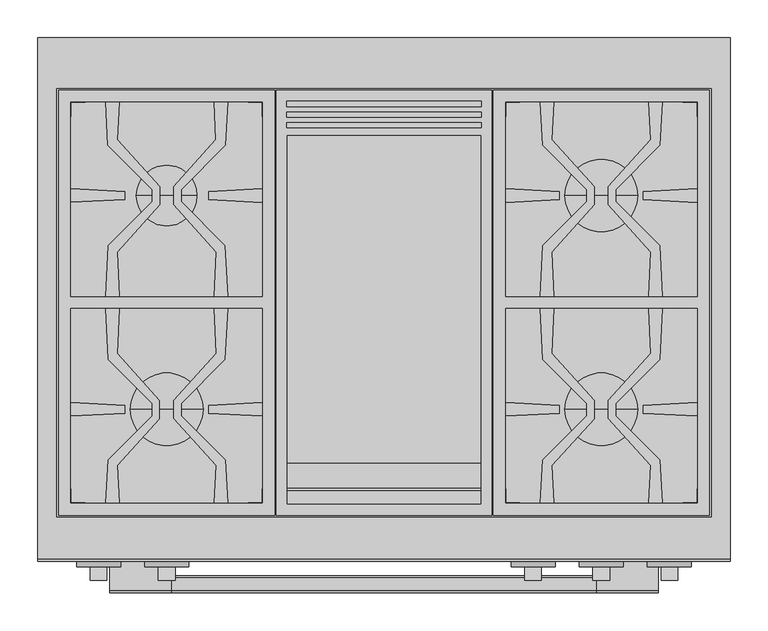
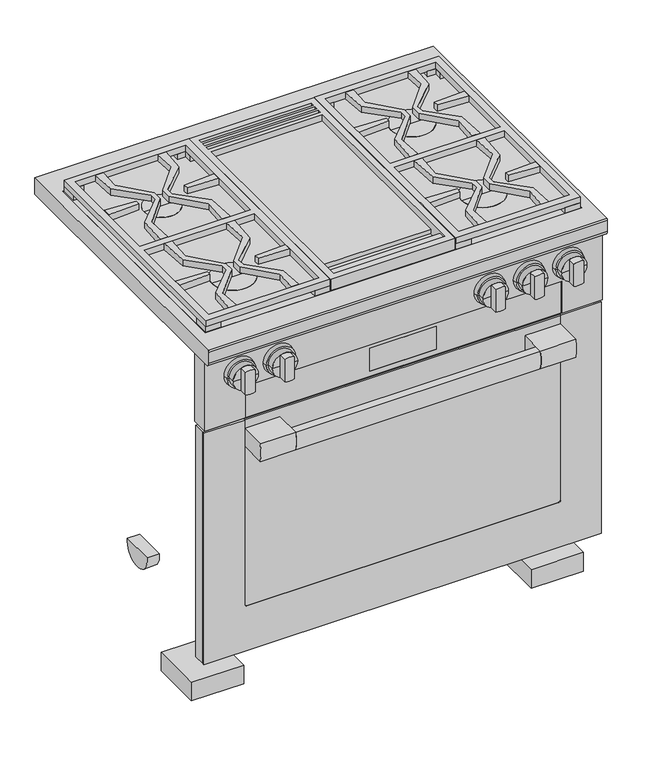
"""IFC4 building model written with IfcOpenShell, lengths in millimetres: proxy geometry, 11816610_BR_HR1936-3LP_EDST-CLS : 25193682_BR_11816610_HR1936-3LP_EDST-CLS."""

from ifc_helpers import new_model, si_unit, point, frame, frame_2d, origin, origin_with_axes, place, context, project, spatial, polyline, circle_curve, trimmed, segment, composite_curve, outline, extrude, faceted_brep, source, transform, mapped, element, save
from ifc_brep_helpers import plane_surface, cylinder_surface, revolved_surface, advanced_brep


def specialty_equipment_28f5a069(model_context):
    return source(origin(), model_context, "Body", "SolidModel", [
        extrude(outline(polyline([(-427.0, -617.0), (427.0, -617.0), (427.0, -638.0), (-427.0, -638.0), (-427.0, -617.0)])), frame((0.0, 0.0, 133.0), z_axis=(0.0, 0.0, 1.0), x_axis=(1.0, 0.0, 0.0)), (0.0, 0.0, 1.0), 550.0),
        advanced_brep(
        [(363.0, -664.7, 688.0), (456.0, -664.7, 688.0), (456.0, -664.7, 127.0), (-456.0, -664.7, 127.0), (-456.0, -664.7, 688.0), (-363.0, -664.7, 688.0), (-363.0, -664.7, 687.0), (-455.0, -664.7, 687.0), (-455.0, -664.7, 128.0), (455.0, -664.7, 128.0), (455.0, -664.7, 687.0), (363.0, -664.7, 687.0), (-363.0, -670.0, 688.0), (-456.0, -670.0, 688.0), (-456.0, -670.0, 127.0), (456.0, -670.0, 127.0), (456.0, -670.0, 688.0), (363.0, -670.0, 688.0), (363.0, -670.0, 241.0), (357.0, -670.0, 235.0), (-357.0, -670.0, 235.0), (-363.0, -670.0, 241.0), (-363.0, -668.7, 241.0), (-363.0, -668.7, 687.0), (357.0, -668.7, 235.0), (-357.0, -668.7, 235.0), (363.0, -668.7, 687.0), (363.0, -668.7, 241.0), (455.0, -668.7, 687.0), (455.0, -668.7, 128.0), (-455.0, -668.7, 128.0), (-455.0, -668.7, 687.0)],
        [
            (0, 1),
            (1, 2),
            (2, 3),
            (3, 4),
            (4, 5),
            (5, 6),
            (6, 7),
            (7, 8),
            (8, 9),
            (9, 10),
            (10, 11),
            (11, 0),
            (12, 13),
            (13, 14),
            (14, 15),
            (15, 16),
            (16, 17),
            (17, 18),
            (18, 19, circle_curve(frame((357.0, -670.0, 241.0), z_axis=(0.0, 1.0, 0.0), x_axis=(-1.0, 0.0, 0.0)), 6.0)),
            (19, 20),
            (20, 21, circle_curve(frame((-357.0, -670.0, 241.0), z_axis=(0.0, 1.0, 0.0), x_axis=(-1.0, 0.0, 0.0)), 6.0)),
            (21, 12),
            (21, 22),
            (22, 23),
            (23, 6),
            (5, 12),
            (19, 24),
            (24, 25),
            (25, 20),
            (17, 0),
            (11, 26),
            (26, 27),
            (27, 18),
            (16, 1),
            (15, 2),
            (14, 3),
            (13, 4),
            (25, 22, circle_curve(frame((-357.0, -668.7, 241.0), z_axis=(0.0, 1.0, 0.0), x_axis=(-1.0, 0.0, 0.0)), 6.0)),
            (27, 24, circle_curve(frame((357.0, -668.7, 241.0), z_axis=(0.0, 1.0, 0.0), x_axis=(-1.0, 0.0, 0.0)), 6.0)),
            (28, 29),
            (29, 30),
            (30, 31),
            (31, 23),
            (26, 28),
            (28, 10),
            (9, 29),
            (8, 30),
            (7, 31),
        ],
        [
            plane_surface(frame((-363.0, -664.7, 241.0), z_axis=(0.0, 1.0, 0.0), x_axis=(0.0, 0.0, -1.0))),
            plane_surface(frame((-363.0, -670.0, 241.0), z_axis=(0.0, -1.0, 0.0), x_axis=(0.0, 0.0, 1.0))),
            plane_surface(frame((-363.0, -664.7, 688.0), z_axis=(1.0, 0.0, 0.0), x_axis=(0.0, -1.0, 0.0))),
            plane_surface(frame((-357.0, -664.7, 235.0), z_axis=(0.0, 0.0, 1.0), x_axis=(0.0, -1.0, 0.0))),
            plane_surface(frame((363.0, -664.7, 241.0), z_axis=(-1.0, 0.0, 0.0), x_axis=(0.0, -1.0, 0.0))),
            plane_surface(frame((363.0, -664.7, 688.0), z_axis=(0.0, 0.0, 1.0), x_axis=(0.0, -1.0, 0.0))),
            plane_surface(frame((456.0, -664.7, 688.0), z_axis=(1.0, 0.0, 0.0), x_axis=(0.0, -1.0, 0.0))),
            plane_surface(frame((456.0, -664.7, 127.0), z_axis=(0.0, 0.0, -1.0), x_axis=(0.0, -1.0, 0.0))),
            plane_surface(frame((-456.0, -664.7, 127.0), z_axis=(-1.0, 0.0, 0.0), x_axis=(0.0, -1.0, 0.0))),
            plane_surface(frame((-456.0, -664.7, 688.0), z_axis=(0.0, 0.0, 1.0), x_axis=(0.0, -1.0, 0.0))),
            revolved_surface(polyline([(-363.0, -670.0, 241.0), (-363.0, -668.7, 241.0)]), (-357.0, -670.0, 241.0), (0.0, -1.0, 0.0)),
            revolved_surface(polyline([(351.0, -670.0, 241.0), (351.0, -668.7, 241.0)]), (357.0, -670.0, 241.0), (0.0, -1.0, 0.0)),
            plane_surface(frame((455.0, -668.7, 687.0), z_axis=(0.0, 1.0, 0.0), x_axis=(0.0, 0.0, 1.0))),
            plane_surface(frame((455.0, -664.7, 687.0), z_axis=(-1.0, 0.0, 0.0), x_axis=(0.0, -1.0, 0.0))),
            plane_surface(frame((455.0, -664.7, 128.0), z_axis=(0.0, 0.0, 1.0), x_axis=(0.0, -1.0, 0.0))),
            plane_surface(frame((-455.0, -664.7, 128.0), z_axis=(1.0, 0.0, 0.0), x_axis=(0.0, -1.0, 0.0))),
            plane_surface(frame((-455.0, -664.7, 687.0), z_axis=(0.0, 0.0, -1.0), x_axis=(0.0, -1.0, 0.0))),
        ],
        [
            (0, [[1, 2, 3, 4, 5, 6, 7, 8, 9, 10, 11, 12]]),
            (1, [[13, 14, 15, 16, 17, 18, 19, 20, 21, 22]]),
            (2, [[-22, 23, 24, 25, -6, 26]]),
            (3, [[-20, 27, 28, 29]]),
            (4, [[-18, 30, -12, 31, 32, 33]]),
            (5, [[-1, -30, -17, 34]]),
            (6, [[-2, -34, -16, 35]]),
            (7, [[-3, -35, -15, 36]]),
            (8, [[-4, -36, -14, 37]]),
            (9, [[-5, -37, -13, -26]]),
            (10, [[-21, -29, 38, -23]]),
            (11, [[-19, -33, 39, -27]]),
            (12, [[40, 41, 42, 43, -24, -38, -28, -39, -32, 44]]),
            (13, [[-40, 45, -10, 46]]),
            (14, [[-41, -46, -9, 47]]),
            (15, [[-42, -47, -8, 48]]),
            (16, [[-45, -44, -31, -11]]),
            (16, [[-48, -7, -25, -43]]),
        ],
    ),
        extrude(outline(polyline([(-455.0, -664.7), (455.0, -664.7), (455.0, -668.7), (-455.0, -668.7), (-455.0, -664.7)])), frame((0.0, 0.0, 128.0), z_axis=(0.0, 0.0, 1.0), x_axis=(1.0, 0.0, 0.0)), (0.0, 0.0, 1.0), 559.0),
        extrude(outline(polyline([(-456.0, -638.0), (456.0, -638.0), (456.0, -664.7), (-456.0, -664.7), (-456.0, -638.0)])), frame((0.0, 0.0, 127.0), z_axis=(0.0, 0.0, 1.0), x_axis=(1.0, 0.0, 0.0)), (0.0, 0.0, 1.0), 561.0),
        extrude(outline(composite_curve([segment(polyline([(-668.7, 667.0), (-668.7, 624.0), (-731.0, 624.0)]), True, "CONTINUOUS"), segment(trimmed(circle_curve(frame_2d((-655.4583333, 645.5)), 78.5416667), [point((-731.0, 624.0))], [point((-731.0, 667.0))], False, "CARTESIAN"), True, "CONTINUOUS"), segment(polyline([(-731.0, 667.0), (-668.7, 667.0)]), True, "CONTINUOUS")], self_intersect=False)), frame((-362.0, 0.0, 0.0), z_axis=(1.0, 0.0, 0.0), x_axis=(0.0, 1.0, 0.0)), (0.0, 0.0, 1.0), 81.0),
        extrude(outline(composite_curve([segment(polyline([(-731.0, 667.0), (-668.7, 667.0), (-668.7, 624.0), (-731.0, 624.0)]), True, "CONTINUOUS"), segment(trimmed(circle_curve(frame_2d((-655.4583333, 645.5)), 78.5416667), [point((-731.0, 624.0))], [point((-731.0, 667.0))], False, "CARTESIAN"), True, "CONTINUOUS")], self_intersect=False)), frame((281.0, 0.0, 0.0), z_axis=(1.0, 0.0, 0.0), x_axis=(0.0, 1.0, 0.0)), (0.0, 0.0, 1.0), 81.0),
        extrude(outline(composite_curve([segment(polyline([(-714.0, 624.0), (-731.0, 624.0)]), True, "CONTINUOUS"), segment(trimmed(circle_curve(frame_2d((-655.4583333, 645.5)), 78.5416667), [point((-731.0, 624.0))], [point((-731.0, 667.0))], False, "CARTESIAN"), True, "CONTINUOUS"), segment(polyline([(-731.0, 667.0), (-714.0, 667.0)]), True, "CONTINUOUS"), segment(trimmed(circle_curve(frame_2d((-789.5416667, 645.5)), 78.5416667), [point((-714.0, 667.0))], [point((-714.0, 624.0))], False, "CARTESIAN"), True, "CONTINUOUS")], self_intersect=False)), frame((-281.0, 0.0, 0.0), z_axis=(1.0, 0.0, 0.0), x_axis=(0.0, 1.0, 0.0)), (0.0, 0.0, 1.0), 562.0),
        advanced_brep(
        [(457.2, 0.0, 902.0), (457.2, -688.3499547, 902.0), (457.2, -692.0, 898.3499547), (457.2, -692.0, 872.0), (457.2, -682.0, 862.0), (457.2, 0.0, 862.0), (-457.2, 0.0, 902.0), (-457.2, 0.0, 862.0), (-457.2, -682.0, 862.0), (-457.2, -692.0, 872.0), (-457.2, -692.0, 898.3499547), (-457.2, -688.3499547, 902.0), (-432.2, -67.0, 902.0), (432.2, -67.0, 902.0), (432.2, -633.0, 902.0), (-432.2, -633.0, 902.0), (432.2, -67.0, 870.0), (-432.2, -67.0, 870.0), (-432.2, -633.0, 870.0), (432.2, -633.0, 870.0)],
        [
            (0, 1),
            (1, 2, circle_curve(frame((457.2, -688.0, 898.0), z_axis=(1.0, 0.0, 0.0), x_axis=(0.0, 0.0, 1.0)), 4.0152794)),
            (2, 3),
            (3, 4, circle_curve(frame((457.2, -682.0, 872.0), z_axis=(1.0, 0.0, 0.0), x_axis=(0.0, 0.0, 1.0)), 10.0)),
            (4, 5),
            (5, 0),
            (6, 7),
            (7, 8),
            (8, 9, circle_curve(frame((-457.2, -682.0, 872.0), z_axis=(-1.0, 0.0, 0.0), x_axis=(0.0, 0.0, 1.0)), 10.0)),
            (9, 10),
            (10, 11, circle_curve(frame((-457.2, -688.0, 898.0), z_axis=(-1.0, 0.0, 0.0), x_axis=(0.0, 0.0, 1.0)), 4.0152794)),
            (11, 6),
            (0, 6),
            (11, 1),
            (12, 13),
            (13, 14),
            (14, 15),
            (15, 12),
            (10, 2),
            (9, 3),
            (8, 4),
            (7, 5),
            (16, 17),
            (17, 18),
            (18, 19),
            (19, 16),
            (16, 13),
            (12, 17),
            (15, 18),
            (14, 19),
        ],
        [
            plane_surface(frame((457.2, -688.3499547, 902.0), z_axis=(1.0, 0.0, 0.0), x_axis=(0.0, -1.0, 0.0))),
            plane_surface(frame((-457.2, -688.3499547, 902.0), z_axis=(-1.0, 0.0, 0.0), x_axis=(0.0, 1.0, 0.0))),
            plane_surface(frame((457.2, 0.0, 902.0), z_axis=(0.0, 0.0, 1.0), x_axis=(-1.0, 0.0, 0.0))),
            cylinder_surface(frame((-457.2, -688.0, 898.0), z_axis=(1.0, 0.0, 0.0), x_axis=(0.0, 0.0, 1.0)), 4.0152794),
            plane_surface(frame((457.2, -692.0, 898.3499547), z_axis=(0.0, -1.0, 0.0), x_axis=(-1.0, 0.0, 0.0))),
            cylinder_surface(frame((-457.2, -682.0, 872.0), z_axis=(1.0, 0.0, 0.0), x_axis=(0.0, 0.0, 1.0)), 10.0),
            plane_surface(frame((457.2, -682.0, 862.0), z_axis=(0.0, 0.0, -1.0), x_axis=(-1.0, 0.0, 0.0))),
            plane_surface(frame((457.2, 0.0, 862.0), z_axis=(0.0, 1.0, 0.0), x_axis=(-1.0, 0.0, 0.0))),
            plane_surface(frame((-432.2, -67.0, 870.0), z_axis=(0.0, 0.0, 1.0), x_axis=(1.0, 0.0, 0.0))),
            plane_surface(frame((432.2, -67.0, 902.0), z_axis=(0.0, -1.0, 0.0), x_axis=(0.0, 0.0, -1.0))),
            plane_surface(frame((-432.2, -67.0, 902.0), z_axis=(1.0, 0.0, 0.0), x_axis=(0.0, 0.0, -1.0))),
            plane_surface(frame((-432.2, -633.0, 902.0), z_axis=(0.0, 1.0, 0.0), x_axis=(0.0, 0.0, -1.0))),
            plane_surface(frame((432.2, -633.0, 902.0), z_axis=(-1.0, 0.0, 0.0), x_axis=(0.0, 0.0, -1.0))),
        ],
        [
            (0, [[1, 2, 3, 4, 5, 6]]),
            (1, [[7, 8, 9, 10, 11, 12]]),
            (2, [[-1, 13, -12, 14], [15, 16, 17, 18]]),
            (3, [[-2, -14, -11, 19]]),
            (4, [[-3, -19, -10, 20]]),
            (5, [[-4, -20, -9, 21]]),
            (6, [[-5, -21, -8, 22]]),
            (7, [[-6, -22, -7, -13]]),
            (8, [[23, 24, 25, 26]]),
            (9, [[-23, 27, -15, 28]]),
            (10, [[-24, -28, -18, 29]]),
            (11, [[-25, -29, -17, 30]]),
            (12, [[-26, -30, -16, -27]]),
        ],
    ),
        advanced_brep(
        [(-335.0, -491.0, 887.0), (-239.0, -491.0, 887.0), (-239.0, -491.0, 901.0), (-335.0, -491.0, 901.0), (-287.0, -491.0, 887.0), (-287.0, -491.0, 901.0)],
        [
            (0, 1, circle_curve(frame((-287.0, -491.0, 887.0), z_axis=(0.0, 0.0, 1.0), x_axis=(1.0, 0.0, 0.0)), 48.0)),
            (1, 2),
            (2, 3, circle_curve(frame((-287.0, -491.0, 901.0), z_axis=(0.0, 0.0, -1.0), x_axis=(1.0, 0.0, 0.0)), 48.0)),
            (3, 0),
            (1, 0, circle_curve(frame((-287.0, -491.0, 887.0), z_axis=(0.0, 0.0, 1.0), x_axis=(1.0, 0.0, 0.0)), 48.0)),
            (3, 2, circle_curve(frame((-287.0, -491.0, 901.0), z_axis=(0.0, 0.0, -1.0), x_axis=(1.0, 0.0, 0.0)), 48.0)),
            (4, 1),
            (0, 4),
            (2, 5),
            (5, 3),
        ],
        [
            cylinder_surface(frame((-287.0, -491.0, 2424.4), z_axis=(0.0, 0.0, -1.0), x_axis=(1.0, 0.0, 0.0)), 48.0),
            plane_surface(frame((-287.0, -491.0, 887.0), z_axis=(0.0, 0.0, -1.0), x_axis=(1.0, 0.0, 0.0))),
            plane_surface(frame((-287.0, -491.0, 901.0), z_axis=(0.0, 0.0, 1.0), x_axis=(1.0, 0.0, 0.0))),
        ],
        [
            (0, [[1, 2, 3, 4]]),
            (0, [[5, -4, 6, -2]]),
            (1, [[7, -1, 8]]),
            (1, [[-8, -5, -7]]),
            (2, [[-3, 9, 10]]),
            (2, [[-6, -10, -9]]),
        ],
    ),
        advanced_brep(
        [(-287.0, -208.5, 887.0), (-247.0, -208.5, 887.0), (-327.0, -208.5, 887.0), (-327.0, -208.5, 901.0), (-247.0, -208.5, 901.0), (-287.0, -208.5, 901.0)],
        [
            (0, 1),
            (1, 2, circle_curve(frame((-287.0, -208.5, 887.0), z_axis=(0.0, 0.0, -1.0), x_axis=(1.0, 0.0, 0.0)), 40.0)),
            (2, 0),
            (2, 1, circle_curve(frame((-287.0, -208.5, 887.0), z_axis=(0.0, 0.0, -1.0), x_axis=(1.0, 0.0, 0.0)), 40.0)),
            (3, 4, circle_curve(frame((-287.0, -208.5, 901.0), z_axis=(0.0, 0.0, 1.0), x_axis=(1.0, 0.0, 0.0)), 40.0)),
            (4, 5),
            (5, 3),
            (4, 3, circle_curve(frame((-287.0, -208.5, 901.0), z_axis=(0.0, 0.0, 1.0), x_axis=(1.0, 0.0, 0.0)), 40.0)),
            (1, 4),
            (3, 2),
        ],
        [
            plane_surface(frame((-287.0, -208.5, 887.0), z_axis=(0.0, 0.0, -1.0), x_axis=(1.0, 0.0, 0.0))),
            plane_surface(frame((-287.0, -208.5, 901.0), z_axis=(0.0, 0.0, 1.0), x_axis=(1.0, 0.0, 0.0))),
            cylinder_surface(frame((-287.0, -208.5, 2424.4), z_axis=(0.0, 0.0, -1.0), x_axis=(1.0, 0.0, 0.0)), 40.0),
        ],
        [
            (0, [[1, 2, 3]]),
            (0, [[-3, 4, -1]]),
            (1, [[5, 6, 7]]),
            (1, [[8, -7, -6]]),
            (2, [[-2, 9, -5, 10]]),
            (2, [[-4, -10, -8, -9]]),
        ],
    ),
        extrude(outline(polyline([(429.5, -631.0), (394.5, -631.0), (394.5, -615.0), (413.5, -615.0), (413.5, -596.0), (429.5, -596.0), (429.5, -631.0)])), frame((0.0, 0.0, 887.0), z_axis=(0.0, 0.0, 1.0), x_axis=(1.0, 0.0, 0.0)), (0.0, 0.0, 1.0), 27.0),
        extrude(outline(polyline([(144.5, -631.0), (144.5, -596.0), (160.5125078, -596.0), (160.5125078, -615.0), (179.5, -615.0), (179.5, -631.0), (144.5, -631.0)])), frame((0.0, 0.0, 887.0), z_axis=(0.0, 0.0, 1.0), x_axis=(1.0, 0.0, 0.0)), (0.0, 0.0, 1.0), 27.0),
        extrude(outline(polyline([(429.5, -69.0), (429.5, -104.0), (413.4874922, -104.0), (413.4874922, -85.0), (394.5, -85.0), (394.5, -69.0), (429.5, -69.0)])), frame((0.0, 0.0, 887.0), z_axis=(0.0, 0.0, 1.0), x_axis=(1.0, 0.0, 0.0)), (0.0, 0.0, 1.0), 27.0),
        extrude(outline(polyline([(144.5, -69.0), (179.5, -69.0), (179.5, -85.0), (160.5125078, -85.0), (160.5125078, -104.0), (144.5, -104.0), (144.5, -69.0)])), frame((0.0, 0.0, 887.0), z_axis=(0.0, 0.0, 1.0), x_axis=(1.0, 0.0, 0.0)), (0.0, 0.0, 1.0), 27.0),
        advanced_brep(
        [(239.0, -491.0, 887.0), (335.0, -491.0, 887.0), (335.0, -491.0, 901.0), (239.0, -491.0, 901.0), (287.0, -491.0, 887.0), (287.0, -491.0, 901.0)],
        [
            (0, 1, circle_curve(frame((287.0, -491.0, 887.0), z_axis=(0.0, 0.0, 1.0), x_axis=(1.0, 0.0, 0.0)), 48.0)),
            (1, 2),
            (2, 3, circle_curve(frame((287.0, -491.0, 901.0), z_axis=(0.0, 0.0, -1.0), x_axis=(1.0, 0.0, 0.0)), 48.0)),
            (3, 0),
            (1, 0, circle_curve(frame((287.0, -491.0, 887.0), z_axis=(0.0, 0.0, 1.0), x_axis=(1.0, 0.0, 0.0)), 48.0)),
            (3, 2, circle_curve(frame((287.0, -491.0, 901.0), z_axis=(0.0, 0.0, -1.0), x_axis=(1.0, 0.0, 0.0)), 48.0)),
            (4, 1),
            (0, 4),
            (2, 5),
            (5, 3),
        ],
        [
            cylinder_surface(frame((287.0, -491.0, 2424.4), z_axis=(0.0, 0.0, -1.0), x_axis=(1.0, 0.0, 0.0)), 48.0),
            plane_surface(frame((287.0, -491.0, 887.0), z_axis=(0.0, 0.0, -1.0), x_axis=(1.0, 0.0, 0.0))),
            plane_surface(frame((287.0, -491.0, 901.0), z_axis=(0.0, 0.0, 1.0), x_axis=(1.0, 0.0, 0.0))),
        ],
        [
            (0, [[1, 2, 3, 4]]),
            (0, [[5, -4, 6, -2]]),
            (1, [[7, -1, 8]]),
            (1, [[-8, -5, -7]]),
            (2, [[-3, 9, 10]]),
            (2, [[-6, -10, -9]]),
        ],
    ),
        extrude(outline(polyline([(429.5, -69.0), (429.5, -631.0), (144.5, -631.0), (144.5, -69.0), (429.5, -69.0)]), holes=[polyline([(413.5, -85.0), (160.5, -85.0), (160.5, -342.0), (413.5, -342.0), (413.5, -85.0)]), polyline([(160.5, -358.0), (160.5, -615.0), (413.5, -615.0), (413.5, -358.0), (160.5, -358.0)])]), frame((0.0, 0.0, 914.0), z_axis=(0.0, 0.0, 1.0), x_axis=(1.0, 0.0, 0.0)), (0.0, 0.0, 1.0), 15.0),
        extrude(outline(polyline([(-144.5, -69.0), (-144.5, -631.0), (-429.5, -631.0), (-429.5, -69.0), (-144.5, -69.0)]), holes=[polyline([(-160.5, -85.0), (-413.5, -85.0), (-413.5, -342.0), (-160.5, -342.0), (-160.5, -85.0)]), polyline([(-413.5, -358.0), (-413.5, -615.0), (-160.5, -615.0), (-160.5, -358.0), (-413.5, -358.0)])]), frame((0.0, 0.0, 914.0), z_axis=(0.0, 0.0, 1.0), x_axis=(1.0, 0.0, 0.0)), (0.0, 0.0, 1.0), 15.0),
        advanced_brep(
        [(239.0, -208.5, 887.0), (335.0, -208.5, 887.0), (335.0, -208.5, 901.0), (239.0, -208.5, 901.0), (287.0, -208.5, 887.0), (287.0, -208.5, 901.0)],
        [
            (0, 1, circle_curve(frame((287.0, -208.5, 887.0), z_axis=(0.0, 0.0, 1.0), x_axis=(1.0, 0.0, 0.0)), 48.0)),
            (1, 2),
            (2, 3, circle_curve(frame((287.0, -208.5, 901.0), z_axis=(0.0, 0.0, -1.0), x_axis=(1.0, 0.0, 0.0)), 48.0)),
            (3, 0),
            (1, 0, circle_curve(frame((287.0, -208.5, 887.0), z_axis=(0.0, 0.0, 1.0), x_axis=(1.0, 0.0, 0.0)), 48.0)),
            (3, 2, circle_curve(frame((287.0, -208.5, 901.0), z_axis=(0.0, 0.0, -1.0), x_axis=(1.0, 0.0, 0.0)), 48.0)),
            (4, 1),
            (0, 4),
            (2, 5),
            (5, 3),
        ],
        [
            cylinder_surface(frame((287.0, -208.5, 2424.4), z_axis=(0.0, 0.0, -1.0), x_axis=(1.0, 0.0, 0.0)), 48.0),
            plane_surface(frame((287.0, -208.5, 887.0), z_axis=(0.0, 0.0, -1.0), x_axis=(1.0, 0.0, 0.0))),
            plane_surface(frame((287.0, -208.5, 901.0), z_axis=(0.0, 0.0, 1.0), x_axis=(1.0, 0.0, 0.0))),
        ],
        [
            (0, [[1, 2, 3, 4]]),
            (0, [[5, -4, 6, -2]]),
            (1, [[7, -1, 8]]),
            (1, [[-8, -5, -7]]),
            (2, [[-3, 9, 10]]),
            (2, [[-6, -10, -9]]),
        ],
    ),
        extrude(outline(polyline([(160.5, -217.4810574), (160.5, -199.5189426), (231.5, -203.2078739), (231.5, -213.7921261), (160.5, -217.4810574)])), frame((0.0, 0.0, 914.0), z_axis=(0.0, 0.0, 1.0), x_axis=(1.0, 0.0, 0.0)), (0.0, 0.0, 1.0), 15.0),
        extrude(outline(polyline([(413.5, -199.5262039), (413.5, -217.4737961), (342.5, -213.7790477), (342.5, -203.2209523), (413.5, -199.5262039)])), frame((0.0, 0.0, 914.0), z_axis=(0.0, 0.0, 1.0), x_axis=(1.0, 0.0, 0.0)), (0.0, 0.0, 1.0), 15.0),
        extrude(outline(polyline([(160.5, -499.9810574), (160.5, -482.0189426), (231.5, -485.7078739), (231.5, -496.2921261), (160.5, -499.9810574)])), frame((0.0, 0.0, 914.0), z_axis=(0.0, 0.0, 1.0), x_axis=(1.0, 0.0, 0.0)), (0.0, 0.0, 1.0), 15.0),
        extrude(outline(polyline([(413.5, -482.0262039), (413.5, -499.9737961), (342.5, -496.2790477), (342.5, -485.7209523), (413.5, -482.0262039)])), frame((0.0, 0.0, 914.0), z_axis=(0.0, 0.0, 1.0), x_axis=(1.0, 0.0, 0.0)), (0.0, 0.0, 1.0), 15.0),
        extrude(outline(polyline([(-144.5, -631.0), (-179.5, -631.0), (-179.5, -615.0), (-160.5, -615.0), (-160.5, -596.0), (-144.5, -596.0), (-144.5, -631.0)])), frame((0.0, 0.0, 887.0), z_axis=(0.0, 0.0, 1.0), x_axis=(1.0, 0.0, 0.0)), (0.0, 0.0, 1.0), 27.0),
        extrude(outline(polyline([(-429.5, -631.0), (-429.5, -596.0), (-413.5, -596.0), (-413.5, -615.0), (-394.5, -615.0), (-394.5, -631.0), (-429.5, -631.0)])), frame((0.0, 0.0, 887.0), z_axis=(0.0, 0.0, 1.0), x_axis=(1.0, 0.0, 0.0)), (0.0, 0.0, 1.0), 27.0),
        extrude(outline(polyline([(-144.5, -69.0), (-144.5, -104.0), (-160.5, -104.0), (-160.5, -85.0), (-179.5, -85.0), (-179.5, -69.0), (-144.5, -69.0)])), frame((0.0, 0.0, 887.0), z_axis=(0.0, 0.0, 1.0), x_axis=(1.0, 0.0, 0.0)), (0.0, 0.0, 1.0), 27.0),
        extrude(outline(polyline([(-429.5, -69.0), (-394.5, -69.0), (-394.5, -85.0), (-413.5, -85.0), (-413.5, -104.0), (-429.5, -104.0), (-429.5, -69.0)])), frame((0.0, 0.0, 887.0), z_axis=(0.0, 0.0, 1.0), x_axis=(1.0, 0.0, 0.0)), (0.0, 0.0, 1.0), 27.0),
        extrude(outline(polyline([(-342.5, -496.2921261), (-413.5, -499.9578849), (-413.5, -482.0421151), (-342.5, -485.7078739), (-342.5, -496.2921261)])), frame((0.0, 0.0, 914.0), z_axis=(0.0, 0.0, 1.0), x_axis=(1.0, 0.0, 0.0)), (0.0, 0.0, 1.0), 15.0),
        extrude(outline(polyline([(-160.5, -482.0029948), (-160.5, -499.9970052), (-231.5, -496.2790477), (-231.5, -485.7209523), (-160.5, -482.0029948)])), frame((0.0, 0.0, 914.0), z_axis=(0.0, 0.0, 1.0), x_axis=(1.0, 0.0, 0.0)), (0.0, 0.0, 1.0), 15.0),
        extrude(outline(polyline([(-342.5, -213.7921261), (-413.5, -217.4578849), (-413.5, -199.5421151), (-342.5, -203.2078739), (-342.5, -213.7921261)])), frame((0.0, 0.0, 914.0), z_axis=(0.0, 0.0, 1.0), x_axis=(1.0, 0.0, 0.0)), (0.0, 0.0, 1.0), 15.0),
        extrude(outline(polyline([(-160.5, -199.5029948), (-160.5, -217.4970052), (-231.5, -213.7790477), (-231.5, -203.2209523), (-160.5, -199.5029948)])), frame((0.0, 0.0, 914.0), z_axis=(0.0, 0.0, 1.0), x_axis=(1.0, 0.0, 0.0)), (0.0, 0.0, 1.0), 15.0),
        extrude(outline(polyline([(-144.5, -67.0), (-144.5, -633.0), (-429.5, -633.0), (-429.5, -67.0), (-144.5, -67.0)])), frame((0.0, 0.0, 870.0), z_axis=(0.0, 0.0, 1.0), x_axis=(1.0, 0.0, 0.0)), (0.0, 0.0, 1.0), 17.0),
        extrude(outline(polyline([(429.5, -67.0), (429.5, -633.0), (144.5, -633.0), (144.5, -67.0), (429.5, -67.0)])), frame((0.0, 0.0, 870.0), z_axis=(0.0, 0.0, 1.0), x_axis=(1.0, 0.0, 0.0)), (0.0, 0.0, 1.0), 17.0),
        extrude(outline(polyline([(-367.5385862, -85.0), (-349.5385862, -85.0), (-352.1338026, -134.5196799), (-296.5, -196.6082182), (-296.5, -220.3917818), (-352.6289218, -283.0328838), (-349.5385862, -342.0), (-367.5385862, -342.0), (-364.0028157, -274.5334805), (-306.1108918, -216.6415566), (-306.1108918, -200.3584434), (-364.5558783, -141.9134569), (-367.5385862, -85.0)])), frame((0.0, 0.0, 914.0), z_axis=(0.0, 0.0, 1.0), x_axis=(1.0, 0.0, 0.0)), (0.0, 0.0, 1.0), 15.0),
        extrude(outline(polyline([(-224.5, -85.0), (-206.5, -85.0), (-209.4827079, -141.9134569), (-267.8891082, -200.3198573), (-267.8891082, -216.6801428), (-210.0357705, -274.5334805), (-206.5, -342.0), (-224.5, -342.0), (-221.4096644, -283.0328839), (-277.5, -220.4348449), (-277.5, -196.5651551), (-221.9047835, -134.5196799), (-224.5, -85.0)])), frame((0.0, 0.0, 914.0), z_axis=(0.0, 0.0, 1.0), x_axis=(1.0, 0.0, 0.0)), (0.0, 0.0, 1.0), 15.0),
        extrude(outline(polyline([(206.4614138, -85.0), (224.4614138, -85.0), (221.8661974, -134.5196799), (277.5, -196.6082182), (277.5, -220.3917818), (221.3710782, -283.0328838), (224.4614138, -342.0), (206.4614138, -342.0), (209.9971843, -274.5334805), (267.8891082, -216.6415566), (267.8891082, -200.3584434), (209.4441217, -141.9134569), (206.4614138, -85.0)])), frame((0.0, 0.0, 914.0), z_axis=(0.0, 0.0, 1.0), x_axis=(1.0, 0.0, 0.0)), (0.0, 0.0, 1.0), 15.0),
        extrude(outline(polyline([(349.5, -85.0), (367.5, -85.0), (364.5172921, -141.9134569), (306.1108918, -200.3198573), (306.1108918, -216.6801428), (363.9642295, -274.5334805), (367.5, -342.0), (349.5, -342.0), (352.5903356, -283.0328839), (296.5, -220.4348449), (296.5, -196.5651551), (352.0952165, -134.5196799), (349.5, -85.0)])), frame((0.0, 0.0, 914.0), z_axis=(0.0, 0.0, 1.0), x_axis=(1.0, 0.0, 0.0)), (0.0, 0.0, 1.0), 15.0),
        extrude(outline(polyline([(-367.5822696, -358.0273828), (-349.5825893, -358.0273828), (-352.6525581, -416.9894265), (-296.5409434, -479.568392), (-296.5409434, -503.4471434), (-352.1069467, -565.5024535), (-349.4948945, -615.0212482), (-367.4945748, -615.0212482), (-364.5293542, -558.0710081), (-306.1505447, -499.6921986), (-306.1505447, -483.3657133), (-364.0235617, -425.4926963), (-367.5822696, -358.0273828)])), frame((0.0, 0.0, 914.0), z_axis=(0.0, 0.0, 1.0), x_axis=(1.0, 0.0, 0.0)), (0.0, 0.0, 1.0), 15.0),
        extrude(outline(polyline([(-224.5411265, -358.0273828), (-206.5465434, -358.0273828), (-210.0565254, -425.4403498), (-267.9287769, -483.3126013), (-267.9287769, -499.6295194), (-209.4561608, -558.1021355), (-206.4537513, -615.0212482), (-224.458529, -615.0212482), (-221.8779352, -565.4581775), (-277.5409298, -503.3795395), (-277.5409298, -479.6049953), (-221.4333083, -416.9448139), (-224.5411265, -358.0273828)])), frame((0.0, 0.0, 914.0), z_axis=(0.0, 0.0, 1.0), x_axis=(1.0, 0.0, 0.0)), (0.0, 0.0, 1.0), 15.0),
        extrude(outline(polyline([(206.4177304, -358.0273828), (224.4174107, -358.0273828), (221.3474419, -416.9894265), (277.4590566, -479.568392), (277.4590566, -503.4471434), (221.8930533, -565.5024535), (224.5051055, -615.0212482), (206.5054252, -615.0212482), (209.4706458, -558.0710081), (267.8494553, -499.6921986), (267.8494553, -483.3657133), (209.9764383, -425.4926963), (206.4177304, -358.0273828)])), frame((0.0, 0.0, 914.0), z_axis=(0.0, 0.0, 1.0), x_axis=(1.0, 0.0, 0.0)), (0.0, 0.0, 1.0), 15.0),
        extrude(outline(polyline([(352.5666917, -416.9448139), (349.4588735, -358.0273828), (367.4534566, -358.0273828), (363.9434746, -425.4403498), (306.0712231, -483.3126013), (306.0712231, -499.6295194), (364.5438392, -558.1021355), (367.5462487, -615.0212482), (349.541471, -615.0212482), (352.1220648, -565.4581775), (296.4590702, -503.3795395), (296.4590702, -479.6049953), (352.5666917, -416.9448139)])), frame((0.0, 0.0, 914.0), z_axis=(0.0, 0.0, 1.0), x_axis=(1.0, 0.0, 0.0)), (0.0, 0.0, 1.0), 15.0),
        extrude(outline(polyline([(432.2, -67.0), (432.2, -633.0), (-432.2, -633.0), (-432.2, -67.0), (432.2, -67.0)])), frame((0.0, 0.0, 870.0), z_axis=(0.0, 0.0, 1.0), x_axis=(1.0, 0.0, 0.0)), (0.0, 0.0, 1.0), 31.0),
        extrude(outline(polyline([(142.5, -69.0), (142.5, -631.0), (-142.5, -631.0), (-142.5, -69.0), (142.5, -69.0)]), holes=[polyline([(127.5, -129.0), (-127.5, -129.0), (-127.5, -616.0), (127.5, -616.0), (127.5, -129.0)]), polyline([(-128.5, -84.0), (-128.5, -91.0), (128.5, -91.0), (128.5, -84.0), (-128.5, -84.0)]), polyline([(-128.5, -98.0), (-128.5, -105.0), (128.5, -105.0), (128.5, -98.0), (-128.5, -98.0)]), polyline([(-128.5, -112.0), (-128.5, -119.0), (128.5, -119.0), (128.5, -112.0), (-128.5, -112.0)])]), frame((0.0, 0.0, 891.0), z_axis=(0.0, 0.0, 1.0), x_axis=(1.0, 0.0, 0.0)), (0.0, 0.0, 1.0), 38.0),
        extrude(outline(polyline([(-599.0, 926.0), (-599.0, 916.0), (-602.0, 916.0), (-590.3423085, 891.0), (-558.0, 891.0), (-558.0, 904.0), (-562.0, 904.0), (-562.0, 914.0), (-129.0, 914.0), (-129.0, 904.0), (-557.0, 904.0), (-557.0, 890.0), (-590.9793788, 890.0), (-603.1033779, 916.0), (-616.0, 916.0), (-616.0, 926.0), (-599.0, 926.0)])), frame((-127.5, 0.0, 0.0), z_axis=(1.0, 0.0, 0.0), x_axis=(0.0, 1.0, 0.0)), (0.0, 0.0, 1.0), 255.0),
        advanced_brep(
        [(377.0, -683.0, 813.0), (406.0, -683.0, 813.0), (348.0, -683.0, 813.0), (348.0, -699.0, 813.0), (406.0, -699.0, 813.0), (377.0, -699.0, 813.0)],
        [
            (0, 1),
            (1, 2, circle_curve(frame((377.0, -683.0, 813.0), z_axis=(0.0, 1.0, 0.0), x_axis=(1.0, 0.0, 0.0)), 29.0)),
            (2, 0),
            (2, 1, circle_curve(frame((377.0, -683.0, 813.0), z_axis=(0.0, 1.0, 0.0), x_axis=(1.0, 0.0, 0.0)), 29.0)),
            (3, 4, circle_curve(frame((377.0, -699.0, 813.0), z_axis=(0.0, -1.0, 0.0), x_axis=(1.0, 0.0, 0.0)), 29.0)),
            (4, 5),
            (5, 3),
            (4, 3, circle_curve(frame((377.0, -699.0, 813.0), z_axis=(0.0, -1.0, 0.0), x_axis=(1.0, 0.0, 0.0)), 29.0)),
            (1, 4),
            (3, 2),
        ],
        [
            plane_surface(frame((377.0, -683.0, 813.0), z_axis=(0.0, 1.0, 0.0), x_axis=(1.0, 0.0, 0.0))),
            plane_surface(frame((377.0, -699.0, 813.0), z_axis=(0.0, -1.0, 0.0), x_axis=(1.0, 0.0, 0.0))),
            cylinder_surface(frame((377.0, 751.3738435, 813.0), z_axis=(0.0, 1.0, 0.0), x_axis=(1.0, 0.0, 0.0)), 29.0),
        ],
        [
            (0, [[1, 2, 3]]),
            (0, [[-3, 4, -1]]),
            (1, [[5, 6, 7]]),
            (1, [[8, -7, -6]]),
            (2, [[-2, 9, -5, 10]]),
            (2, [[-4, -10, -8, -9]]),
        ],
    ),
        extrude(outline(composite_curve([segment(polyline([(786.1671843, 388.0), (839.8328157, 388.0)]), True, "CONTINUOUS"), segment(trimmed(circle_curve(frame_2d((813.0, 377.0)), 29.0), [point((839.8328157, 388.0))], [point((839.8328157, 366.0))], False, "CARTESIAN"), True, "CONTINUOUS"), segment(polyline([(839.8328157, 366.0), (786.1671843, 366.0)]), True, "CONTINUOUS"), segment(trimmed(circle_curve(frame_2d((813.0, 377.0)), 29.0), [point((786.1671843, 366.0))], [point((786.1671843, 388.0))], False, "CARTESIAN"), True, "CONTINUOUS")], self_intersect=False)), frame((0.0, -717.0, 0.0), z_axis=(0.0, 1.0, 0.0), x_axis=(0.0, 0.0, 1.0)), (0.0, 0.0, 1.0), 18.0),
        advanced_brep(
        [(287.0, -683.0, 813.0), (316.0, -683.0, 813.0), (258.0, -683.0, 813.0), (258.0, -699.0, 813.0), (316.0, -699.0, 813.0), (287.0, -699.0, 813.0)],
        [
            (0, 1),
            (1, 2, circle_curve(frame((287.0, -683.0, 813.0), z_axis=(0.0, 1.0, 0.0), x_axis=(1.0, 0.0, 0.0)), 29.0)),
            (2, 0),
            (2, 1, circle_curve(frame((287.0, -683.0, 813.0), z_axis=(0.0, 1.0, 0.0), x_axis=(1.0, 0.0, 0.0)), 29.0)),
            (3, 4, circle_curve(frame((287.0, -699.0, 813.0), z_axis=(0.0, -1.0, 0.0), x_axis=(1.0, 0.0, 0.0)), 29.0)),
            (4, 5),
            (5, 3),
            (4, 3, circle_curve(frame((287.0, -699.0, 813.0), z_axis=(0.0, -1.0, 0.0), x_axis=(1.0, 0.0, 0.0)), 29.0)),
            (1, 4),
            (3, 2),
        ],
        [
            plane_surface(frame((287.0, -683.0, 813.0), z_axis=(0.0, 1.0, 0.0), x_axis=(1.0, 0.0, 0.0))),
            plane_surface(frame((287.0, -699.0, 813.0), z_axis=(0.0, -1.0, 0.0), x_axis=(1.0, 0.0, 0.0))),
            cylinder_surface(frame((287.0, 751.3738435, 813.0), z_axis=(0.0, 1.0, 0.0), x_axis=(1.0, 0.0, 0.0)), 29.0),
        ],
        [
            (0, [[1, 2, 3]]),
            (0, [[-3, 4, -1]]),
            (1, [[5, 6, 7]]),
            (1, [[8, -7, -6]]),
            (2, [[-2, 9, -5, 10]]),
            (2, [[-4, -10, -8, -9]]),
        ],
    ),
        advanced_brep(
        [(197.0, -683.0, 813.0), (226.0, -683.0, 813.0), (168.0, -683.0, 813.0), (168.0, -699.0, 813.0), (226.0, -699.0, 813.0), (197.0, -699.0, 813.0)],
        [
            (0, 1),
            (1, 2, circle_curve(frame((197.0, -683.0, 813.0), z_axis=(0.0, 1.0, 0.0), x_axis=(1.0, 0.0, 0.0)), 29.0)),
            (2, 0),
            (2, 1, circle_curve(frame((197.0, -683.0, 813.0), z_axis=(0.0, 1.0, 0.0), x_axis=(1.0, 0.0, 0.0)), 29.0)),
            (3, 4, circle_curve(frame((197.0, -699.0, 813.0), z_axis=(0.0, -1.0, 0.0), x_axis=(1.0, 0.0, 0.0)), 29.0)),
            (4, 5),
            (5, 3),
            (4, 3, circle_curve(frame((197.0, -699.0, 813.0), z_axis=(0.0, -1.0, 0.0), x_axis=(1.0, 0.0, 0.0)), 29.0)),
            (1, 4),
            (3, 2),
        ],
        [
            plane_surface(frame((197.0, -683.0, 813.0), z_axis=(0.0, 1.0, 0.0), x_axis=(1.0, 0.0, 0.0))),
            plane_surface(frame((197.0, -699.0, 813.0), z_axis=(0.0, -1.0, 0.0), x_axis=(1.0, 0.0, 0.0))),
            cylinder_surface(frame((197.0, 751.3738435, 813.0), z_axis=(0.0, 1.0, 0.0), x_axis=(1.0, 0.0, 0.0)), 29.0),
        ],
        [
            (0, [[1, 2, 3]]),
            (0, [[-3, 4, -1]]),
            (1, [[5, 6, 7]]),
            (1, [[8, -7, -6]]),
            (2, [[-2, 9, -5, 10]]),
            (2, [[-4, -10, -8, -9]]),
        ],
    ),
        advanced_brep(
        [(-287.0, -683.0, 813.0), (-258.0, -683.0, 813.0), (-316.0, -683.0, 813.0), (-316.0, -699.0, 813.0), (-258.0, -699.0, 813.0), (-287.0, -699.0, 813.0)],
        [
            (0, 1),
            (1, 2, circle_curve(frame((-287.0, -683.0, 813.0), z_axis=(0.0, 1.0, 0.0), x_axis=(1.0, 0.0, 0.0)), 29.0)),
            (2, 0),
            (2, 1, circle_curve(frame((-287.0, -683.0, 813.0), z_axis=(0.0, 1.0, 0.0), x_axis=(1.0, 0.0, 0.0)), 29.0)),
            (3, 4, circle_curve(frame((-287.0, -699.0, 813.0), z_axis=(0.0, -1.0, 0.0), x_axis=(1.0, 0.0, 0.0)), 29.0)),
            (4, 5),
            (5, 3),
            (4, 3, circle_curve(frame((-287.0, -699.0, 813.0), z_axis=(0.0, -1.0, 0.0), x_axis=(1.0, 0.0, 0.0)), 29.0)),
            (1, 4),
            (3, 2),
        ],
        [
            plane_surface(frame((-287.0, -683.0, 813.0), z_axis=(0.0, 1.0, 0.0), x_axis=(1.0, 0.0, 0.0))),
            plane_surface(frame((-287.0, -699.0, 813.0), z_axis=(0.0, -1.0, 0.0), x_axis=(1.0, 0.0, 0.0))),
            cylinder_surface(frame((-287.0, 751.3738435, 813.0), z_axis=(0.0, 1.0, 0.0), x_axis=(1.0, 0.0, 0.0)), 29.0),
        ],
        [
            (0, [[1, 2, 3]]),
            (0, [[-3, 4, -1]]),
            (1, [[5, 6, 7]]),
            (1, [[8, -7, -6]]),
            (2, [[-2, 9, -5, 10]]),
            (2, [[-4, -10, -8, -9]]),
        ],
    ),
        advanced_brep(
        [(-377.0, -683.0, 813.0), (-348.0, -683.0, 813.0), (-406.0, -683.0, 813.0), (-406.0, -699.0, 813.0), (-348.0, -699.0, 813.0), (-377.0, -699.0, 813.0)],
        [
            (0, 1),
            (1, 2, circle_curve(frame((-377.0, -683.0, 813.0), z_axis=(0.0, 1.0, 0.0), x_axis=(1.0, 0.0, 0.0)), 29.0)),
            (2, 0),
            (2, 1, circle_curve(frame((-377.0, -683.0, 813.0), z_axis=(0.0, 1.0, 0.0), x_axis=(1.0, 0.0, 0.0)), 29.0)),
            (3, 4, circle_curve(frame((-377.0, -699.0, 813.0), z_axis=(0.0, -1.0, 0.0), x_axis=(1.0, 0.0, 0.0)), 29.0)),
            (4, 5),
            (5, 3),
            (4, 3, circle_curve(frame((-377.0, -699.0, 813.0), z_axis=(0.0, -1.0, 0.0), x_axis=(1.0, 0.0, 0.0)), 29.0)),
            (1, 4),
            (3, 2),
        ],
        [
            plane_surface(frame((-377.0, -683.0, 813.0), z_axis=(0.0, 1.0, 0.0), x_axis=(1.0, 0.0, 0.0))),
            plane_surface(frame((-377.0, -699.0, 813.0), z_axis=(0.0, -1.0, 0.0), x_axis=(1.0, 0.0, 0.0))),
            cylinder_surface(frame((-377.0, 751.3738435, 813.0), z_axis=(0.0, 1.0, 0.0), x_axis=(1.0, 0.0, 0.0)), 29.0),
        ],
        [
            (0, [[1, 2, 3]]),
            (0, [[-3, 4, -1]]),
            (1, [[5, 6, 7]]),
            (1, [[8, -7, -6]]),
            (2, [[-2, 9, -5, 10]]),
            (2, [[-4, -10, -8, -9]]),
        ],
    ),
        extrude(outline(composite_curve([segment(trimmed(circle_curve(frame_2d((813.0, 287.0)), 29.0), [point((786.1671843, 276.0))], [point((786.1671843, 298.0))], False, "CARTESIAN"), True, "CONTINUOUS"), segment(polyline([(786.1671843, 298.0), (839.8328157, 298.0)]), True, "CONTINUOUS"), segment(trimmed(circle_curve(frame_2d((813.0, 287.0)), 29.0), [point((839.8328157, 298.0))], [point((839.8328157, 276.0))], False, "CARTESIAN"), True, "CONTINUOUS"), segment(polyline([(839.8328157, 276.0), (786.1671843, 276.0)]), True, "CONTINUOUS")], self_intersect=False)), frame((0.0, -717.0, 0.0), z_axis=(0.0, 1.0, 0.0), x_axis=(0.0, 0.0, 1.0)), (0.0, 0.0, 1.0), 18.0),
        extrude(outline(composite_curve([segment(polyline([(839.8328157, 186.0), (786.1671843, 186.0)]), True, "CONTINUOUS"), segment(trimmed(circle_curve(frame_2d((813.0, 197.0)), 29.0), [point((786.1671843, 186.0))], [point((786.1671843, 208.0))], False, "CARTESIAN"), True, "CONTINUOUS"), segment(polyline([(786.1671843, 208.0), (839.8328157, 208.0)]), True, "CONTINUOUS"), segment(trimmed(circle_curve(frame_2d((813.0, 197.0)), 29.0), [point((839.8328157, 208.0))], [point((839.8328157, 186.0))], False, "CARTESIAN"), True, "CONTINUOUS")], self_intersect=False)), frame((0.0, -717.0, 0.0), z_axis=(0.0, 1.0, 0.0), x_axis=(0.0, 0.0, 1.0)), (0.0, 0.0, 1.0), 18.0),
        extrude(outline(composite_curve([segment(polyline([(839.8328157, -298.0), (786.1671843, -298.0)]), True, "CONTINUOUS"), segment(trimmed(circle_curve(frame_2d((813.0, -287.0)), 29.0), [point((786.1671843, -298.0))], [point((786.1671843, -276.0))], False, "CARTESIAN"), True, "CONTINUOUS"), segment(polyline([(786.1671843, -276.0), (839.8328157, -276.0)]), True, "CONTINUOUS"), segment(trimmed(circle_curve(frame_2d((813.0, -287.0)), 29.0), [point((839.8328157, -276.0))], [point((839.8328157, -298.0))], False, "CARTESIAN"), True, "CONTINUOUS")], self_intersect=False)), frame((0.0, -717.0, 0.0), z_axis=(0.0, 1.0, 0.0), x_axis=(0.0, 0.0, 1.0)), (0.0, 0.0, 1.0), 18.0),
        extrude(outline(composite_curve([segment(polyline([(839.8328157, -388.0), (786.1671843, -388.0)]), True, "CONTINUOUS"), segment(trimmed(circle_curve(frame_2d((813.0, -377.0)), 29.0), [point((786.1671843, -388.0))], [point((786.1671843, -366.0))], False, "CARTESIAN"), True, "CONTINUOUS"), segment(polyline([(786.1671843, -366.0), (839.8328157, -366.0)]), True, "CONTINUOUS"), segment(trimmed(circle_curve(frame_2d((813.0, -377.0)), 29.0), [point((839.8328157, -366.0))], [point((839.8328157, -388.0))], False, "CARTESIAN"), True, "CONTINUOUS")], self_intersect=False)), frame((0.0, -717.0, 0.0), z_axis=(0.0, 1.0, 0.0), x_axis=(0.0, 0.0, 1.0)), (0.0, 0.0, 1.0), 18.0),
        advanced_brep(
        [(343.7632698, -683.0, 813.0), (410.2367302, -683.0, 813.0), (377.0, -683.0, 813.0), (342.0, -673.0, 813.0), (412.0, -673.0, 813.0), (377.0, -673.0, 813.0)],
        [
            (0, 1, circle_curve(frame((377.0, -683.0, 813.0), z_axis=(0.0, -1.0, 0.0), x_axis=(1.0, 0.0, 0.0)), 33.2367302)),
            (1, 2),
            (2, 0),
            (1, 0, circle_curve(frame((377.0, -683.0, 813.0), z_axis=(0.0, -1.0, 0.0), x_axis=(1.0, 0.0, 0.0)), 33.2367302)),
            (3, 4, circle_curve(frame((377.0, -673.0, 813.0), z_axis=(0.0, -1.0, 0.0), x_axis=(1.0, 0.0, 0.0)), 35.0)),
            (4, 1),
            (0, 3),
            (4, 3, circle_curve(frame((377.0, -673.0, 813.0), z_axis=(0.0, -1.0, 0.0), x_axis=(1.0, 0.0, 0.0)), 35.0)),
            (5, 4),
            (3, 5),
        ],
        [
            plane_surface(frame((377.0, -683.0, 813.0), z_axis=(0.0, -1.0, 0.0), x_axis=(1.0, 0.0, 0.0))),
            revolved_surface(polyline([(410.2367302, -683.0, 813.0), (412.0, -673.0, 813.0)]), (377.0, 751.3738435, 813.0), (0.0, 1.0, 0.0)),
            plane_surface(frame((377.0, -673.0, 813.0), z_axis=(0.0, 1.0, 0.0), x_axis=(1.0, 0.0, 0.0))),
        ],
        [
            (0, [[1, 2, 3]]),
            (0, [[4, -3, -2]]),
            (1, [[5, 6, -1, 7]]),
            (1, [[8, -7, -4, -6]]),
            (2, [[9, -5, 10]]),
            (2, [[-10, -8, -9]]),
        ],
    ),
        advanced_brep(
        [(253.7632698, -683.0, 813.0), (320.2367302, -683.0, 813.0), (287.0, -683.0, 813.0), (252.0, -673.0, 813.0), (322.0, -673.0, 813.0), (287.0, -673.0, 813.0)],
        [
            (0, 1, circle_curve(frame((287.0, -683.0, 813.0), z_axis=(0.0, -1.0, 0.0), x_axis=(1.0, 0.0, 0.0)), 33.2367302)),
            (1, 2),
            (2, 0),
            (1, 0, circle_curve(frame((287.0, -683.0, 813.0), z_axis=(0.0, -1.0, 0.0), x_axis=(1.0, 0.0, 0.0)), 33.2367302)),
            (3, 4, circle_curve(frame((287.0, -673.0, 813.0), z_axis=(0.0, -1.0, 0.0), x_axis=(1.0, 0.0, 0.0)), 35.0)),
            (4, 1),
            (0, 3),
            (4, 3, circle_curve(frame((287.0, -673.0, 813.0), z_axis=(0.0, -1.0, 0.0), x_axis=(1.0, 0.0, 0.0)), 35.0)),
            (5, 4),
            (3, 5),
        ],
        [
            plane_surface(frame((287.0, -683.0, 813.0), z_axis=(0.0, -1.0, 0.0), x_axis=(1.0, 0.0, 0.0))),
            revolved_surface(polyline([(320.2367302, -683.0, 813.0), (322.0, -673.0, 813.0)]), (287.0, 751.3738435, 813.0), (0.0, 1.0, 0.0)),
            plane_surface(frame((287.0, -673.0, 813.0), z_axis=(0.0, 1.0, 0.0), x_axis=(1.0, 0.0, 0.0))),
        ],
        [
            (0, [[1, 2, 3]]),
            (0, [[4, -3, -2]]),
            (1, [[5, 6, -1, 7]]),
            (1, [[8, -7, -4, -6]]),
            (2, [[9, -5, 10]]),
            (2, [[-10, -8, -9]]),
        ],
    ),
        advanced_brep(
        [(163.7632698, -683.0, 813.0), (230.2367302, -683.0, 813.0), (197.0, -683.0, 813.0), (162.0, -673.0, 813.0), (232.0, -673.0, 813.0), (197.0, -673.0, 813.0)],
        [
            (0, 1, circle_curve(frame((197.0, -683.0, 813.0), z_axis=(0.0, -1.0, 0.0), x_axis=(1.0, 0.0, 0.0)), 33.2367302)),
            (1, 2),
            (2, 0),
            (1, 0, circle_curve(frame((197.0, -683.0, 813.0), z_axis=(0.0, -1.0, 0.0), x_axis=(1.0, 0.0, 0.0)), 33.2367302)),
            (3, 4, circle_curve(frame((197.0, -673.0, 813.0), z_axis=(0.0, -1.0, 0.0), x_axis=(1.0, 0.0, 0.0)), 35.0)),
            (4, 1),
            (0, 3),
            (4, 3, circle_curve(frame((197.0, -673.0, 813.0), z_axis=(0.0, -1.0, 0.0), x_axis=(1.0, 0.0, 0.0)), 35.0)),
            (5, 4),
            (3, 5),
        ],
        [
            plane_surface(frame((197.0, -683.0, 813.0), z_axis=(0.0, -1.0, 0.0), x_axis=(1.0, 0.0, 0.0))),
            revolved_surface(polyline([(230.2367302, -683.0, 813.0), (232.0, -673.0, 813.0)]), (197.0, 751.3738435, 813.0), (0.0, 1.0, 0.0)),
            plane_surface(frame((197.0, -673.0, 813.0), z_axis=(0.0, 1.0, 0.0), x_axis=(1.0, 0.0, 0.0))),
        ],
        [
            (0, [[1, 2, 3]]),
            (0, [[4, -3, -2]]),
            (1, [[5, 6, -1, 7]]),
            (1, [[8, -7, -4, -6]]),
            (2, [[9, -5, 10]]),
            (2, [[-10, -8, -9]]),
        ],
    ),
        advanced_brep(
        [(-320.2367302, -683.0, 813.0), (-253.7632698, -683.0, 813.0), (-287.0, -683.0, 813.0), (-322.0, -673.0, 813.0), (-252.0, -673.0, 813.0), (-287.0, -673.0, 813.0)],
        [
            (0, 1, circle_curve(frame((-287.0, -683.0, 813.0), z_axis=(0.0, -1.0, 0.0), x_axis=(1.0, 0.0, 0.0)), 33.2367302)),
            (1, 2),
            (2, 0),
            (1, 0, circle_curve(frame((-287.0, -683.0, 813.0), z_axis=(0.0, -1.0, 0.0), x_axis=(1.0, 0.0, 0.0)), 33.2367302)),
            (3, 4, circle_curve(frame((-287.0, -673.0, 813.0), z_axis=(0.0, -1.0, 0.0), x_axis=(1.0, 0.0, 0.0)), 35.0)),
            (4, 1),
            (0, 3),
            (4, 3, circle_curve(frame((-287.0, -673.0, 813.0), z_axis=(0.0, -1.0, 0.0), x_axis=(1.0, 0.0, 0.0)), 35.0)),
            (5, 4),
            (3, 5),
        ],
        [
            plane_surface(frame((-287.0, -683.0, 813.0), z_axis=(0.0, -1.0, 0.0), x_axis=(1.0, 0.0, 0.0))),
            revolved_surface(polyline([(-253.7632698, -683.0, 813.0), (-252.0, -673.0, 813.0)]), (-287.0, 751.3738435, 813.0), (0.0, 1.0, 0.0)),
            plane_surface(frame((-287.0, -673.0, 813.0), z_axis=(0.0, 1.0, 0.0), x_axis=(1.0, 0.0, 0.0))),
        ],
        [
            (0, [[1, 2, 3]]),
            (0, [[4, -3, -2]]),
            (1, [[5, 6, -1, 7]]),
            (1, [[8, -7, -4, -6]]),
            (2, [[9, -5, 10]]),
            (2, [[-10, -8, -9]]),
        ],
    ),
        advanced_brep(
        [(-410.2367302, -683.0, 813.0), (-343.7632698, -683.0, 813.0), (-377.0, -683.0, 813.0), (-412.0, -673.0, 813.0), (-342.0, -673.0, 813.0), (-377.0, -673.0, 813.0)],
        [
            (0, 1, circle_curve(frame((-377.0, -683.0, 813.0), z_axis=(0.0, -1.0, 0.0), x_axis=(1.0, 0.0, 0.0)), 33.2367302)),
            (1, 2),
            (2, 0),
            (1, 0, circle_curve(frame((-377.0, -683.0, 813.0), z_axis=(0.0, -1.0, 0.0), x_axis=(1.0, 0.0, 0.0)), 33.2367302)),
            (3, 4, circle_curve(frame((-377.0, -673.0, 813.0), z_axis=(0.0, -1.0, 0.0), x_axis=(1.0, 0.0, 0.0)), 35.0)),
            (4, 1),
            (0, 3),
            (4, 3, circle_curve(frame((-377.0, -673.0, 813.0), z_axis=(0.0, -1.0, 0.0), x_axis=(1.0, 0.0, 0.0)), 35.0)),
            (5, 4),
            (3, 5),
        ],
        [
            plane_surface(frame((-377.0, -683.0, 813.0), z_axis=(0.0, -1.0, 0.0), x_axis=(1.0, 0.0, 0.0))),
            revolved_surface(polyline([(-343.7632698, -683.0, 813.0), (-342.0, -673.0, 813.0)]), (-377.0, 751.3738435, 813.0), (0.0, 1.0, 0.0)),
            plane_surface(frame((-377.0, -673.0, 813.0), z_axis=(0.0, 1.0, 0.0), x_axis=(1.0, 0.0, 0.0))),
        ],
        [
            (0, [[1, 2, 3]]),
            (0, [[4, -3, -2]]),
            (1, [[5, 6, -1, 7]]),
            (1, [[8, -7, -4, -6]]),
            (2, [[9, -5, 10]]),
            (2, [[-10, -8, -9]]),
        ],
    ),
        faceted_brep([(456.0, -673.0, 862.0), (-456.0, -673.0, 862.0), (-456.0, -673.0, 695.0), (-363.0, -673.0, 695.0), (-363.0, -673.0, 772.0), (363.0, -673.0, 772.0), (363.0, -673.0, 695.0), (456.0, -673.0, 695.0), (456.0, -633.0, 862.0), (456.0, -633.0, 695.0), (-456.0, -633.0, 695.0), (-456.0, -633.0, 862.0), (363.0, -666.7, 695.0), (-363.0, -666.7, 695.0), (363.0, -666.7, 772.0), (-363.0, -666.7, 772.0)], [[[0, 1, 2, 3, 4, 5, 6, 7]], [[8, 9, 10, 11]], [[0, 7, 9, 8]], [[10, 9, 7, 6, 12, 13, 3, 2]], [[2, 1, 11, 10]], [[1, 0, 8, 11]], [[14, 15, 13, 12]], [[14, 12, 6, 5]], [[13, 15, 4, 3]], [[15, 14, 5, 4]]]),
        extrude(outline(polyline([(772.0, 363.0), (772.0, -363.0), (695.0, -363.0), (695.0, 363.0), (772.0, 363.0)]), holes=[polyline([(763.0, 76.5), (707.0, 76.5), (707.0, -76.5), (763.0, -76.5), (763.0, 76.5)])]), frame((0.0, -671.7, 0.0), z_axis=(0.0, 1.0, 0.0), x_axis=(0.0, 0.0, 1.0)), (0.0, 0.0, 1.0), 5.0),
        extrude(outline(polyline([(76.5, -671.7), (-76.5, -671.7), (-76.5, -670.7), (76.5, -670.7), (76.5, -671.7)])), frame((0.0, 0.0, 707.0), z_axis=(0.0, 0.0, 1.0), x_axis=(1.0, 0.0, 0.0)), (0.0, 0.0, 1.0), 56.0),
        extrude(outline(polyline([(-330.0, -489.0), (-330.0, -609.0), (-450.0, -609.0), (-450.0, -489.0), (-330.0, -489.0)])), origin_with_axes(), (0.0, 0.0, 1.0), 45.0),
        extrude(outline(polyline([(450.0, -489.0), (450.0, -609.0), (330.0, -609.0), (330.0, -489.0), (450.0, -489.0)])), origin_with_axes(), (0.0, 0.0, 1.0), 45.0),
        extrude(outline(composite_curve([segment(trimmed(circle_curve(frame_2d((-152.0, 39.6862697)), 39.6862697), [point((-112.6710759, 45.0))], [point((-191.3289241, 45.0))], False, "CARTESIAN"), True, "CONTINUOUS"), segment(polyline([(-191.3289241, 45.0), (-112.6710759, 45.0)]), True, "CONTINUOUS")], self_intersect=False)), frame((-310.0, 0.0, 0.0), z_axis=(1.0, 0.0, 0.0), x_axis=(0.0, 1.0, 0.0)), (0.0, 0.0, 1.0), 28.0),
    ])


if __name__ == "__main__":
    model = new_model("IFC4")
    model_context = context("Model", 3, world=origin())
    ifc_project = project(units=[si_unit("LENGTHUNIT", "METRE", prefix="MILLI")], contexts=[model_context])
    site = spatial("IfcSite", under=ifc_project)
    building = spatial("IfcBuilding", under=site)
    placement = place(None, origin())
    specialty_equipment_shape = specialty_equipment_28f5a069(model_context)
    element("IfcBuildingElementProxy", 1, Name="11816610_BR_HR1936-3LP_EDST-CLS : 25193682_BR_11816610_HR1936-3LP_EDST-CLS", ObjectType="11816610_BR_HR1936-3LP_EDST-CLS : 25193682_BR_11816610_HR1936-3LP_EDST-CLS", at=placement, inside=building, context=model_context, shape_type="MappedRepresentation", body=[
        mapped(specialty_equipment_shape, transform((0.0, 0.0, 0.0), x_axis=(1.0, 0.0, 0.0), y_axis=(0.0, 1.0, 0.0), z_axis=(0.0, 0.0, 1.0))),
    ])
    save(model, "model.ifc")
